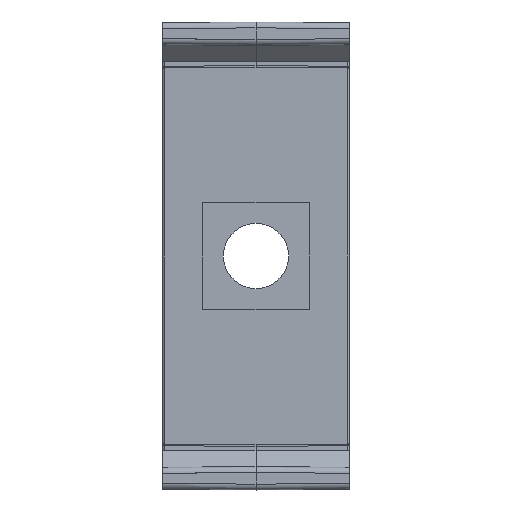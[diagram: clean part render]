
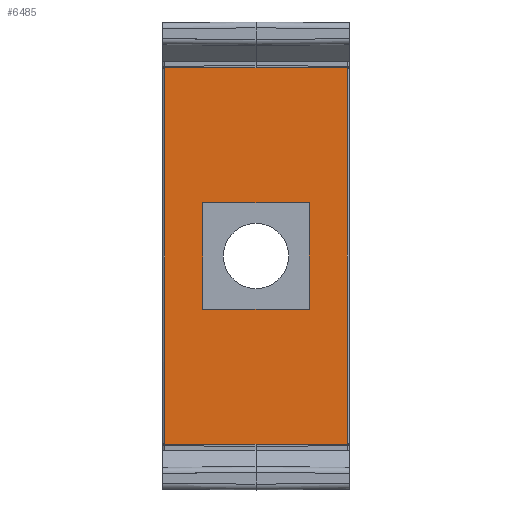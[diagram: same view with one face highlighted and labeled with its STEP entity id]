
A CAD part, front view. The second image highlights one B-rep face of the part: STEP entity #6485.
In plain terms, the highlighted planar face has unit normal (0, -1, 0).
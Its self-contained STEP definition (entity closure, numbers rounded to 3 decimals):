
#6 = VECTOR ( 'NONE', #6651, 1000. ) ;
#101 = VERTEX_POINT ( 'NONE', #4602 ) ;
#395 = EDGE_CURVE ( 'NONE', #2895, #1876, #5619, .T. ) ;
#475 = LINE ( 'NONE', #5902, #6 ) ;
#760 = EDGE_CURVE ( 'NONE', #5408, #2895, #5273, .T. ) ;
#805 = ORIENTED_EDGE ( 'NONE', *, *, #1142, .F. ) ;
#813 = VECTOR ( 'NONE', #3923, 1000. ) ;
#952 = CARTESIAN_POINT ( 'NONE',  ( 4.542, 0., 4.542 ) ) ;
#982 = DIRECTION ( 'NONE',  ( 0., 0., -1. ) ) ;
#1019 = EDGE_CURVE ( 'NONE', #1876, #5669, #5151, .T. ) ;
#1021 = ORIENTED_EDGE ( 'NONE', *, *, #8537, .F. ) ;
#1106 = VECTOR ( 'NONE', #7604, 1000. ) ;
#1124 = EDGE_CURVE ( 'NONE', #7932, #5408, #2514, .T. ) ;
#1142 = EDGE_CURVE ( 'NONE', #5669, #8240, #6219, .T. ) ;
#1193 = ORIENTED_EDGE ( 'NONE', *, *, #395, .F. ) ;
#1202 = CARTESIAN_POINT ( 'NONE',  ( 8., 0., 16.1 ) ) ;
#1441 = CARTESIAN_POINT ( 'NONE',  ( -7.8, 0., 16.1 ) ) ;
#1514 = DIRECTION ( 'NONE',  ( 1., 0., 0. ) ) ;
#1525 = VERTEX_POINT ( 'NONE', #6586 ) ;
#1787 = FACE_BOUND ( 'NONE', #2906, .T. ) ;
#1876 = VERTEX_POINT ( 'NONE', #4313 ) ;
#1885 = PLANE ( 'NONE',  #8732 ) ;
#1932 = VECTOR ( 'NONE', #4443, 1000. ) ;
#1983 = CARTESIAN_POINT ( 'NONE',  ( 0., 0., 16.1 ) ) ;
#2000 = ORIENTED_EDGE ( 'NONE', *, *, #3041, .F. ) ;
#2002 = EDGE_CURVE ( 'NONE', #8240, #7932, #9322, .T. ) ;
#2203 = CARTESIAN_POINT ( 'NONE',  ( 4.542, 0., -16.1 ) ) ;
#2342 = VERTEX_POINT ( 'NONE', #6363 ) ;
#2344 = CARTESIAN_POINT ( 'NONE',  ( 7.8, 0., 16.1 ) ) ;
#2487 = CARTESIAN_POINT ( 'NONE',  ( 8., 0., -16.1 ) ) ;
#2514 = LINE ( 'NONE', #9140, #8149 ) ;
#2644 = CARTESIAN_POINT ( 'NONE',  ( 8., 0., -16.1 ) ) ;
#2895 = VERTEX_POINT ( 'NONE', #9393 ) ;
#2906 = EDGE_LOOP ( 'NONE', ( #7334, #8057, #2000, #1021 ) ) ;
#3034 = LINE ( 'NONE', #8275, #813 ) ;
#3041 = EDGE_CURVE ( 'NONE', #1525, #7394, #3908, .T. ) ;
#3204 = CARTESIAN_POINT ( 'NONE',  ( 8., 0., 4.542 ) ) ;
#3347 = VECTOR ( 'NONE', #8402, 1000. ) ;
#3391 = DIRECTION ( 'NONE',  ( 1., 0., 0. ) ) ;
#3437 = ORIENTED_EDGE ( 'NONE', *, *, #2002, .F. ) ;
#3908 = LINE ( 'NONE', #2203, #1932 ) ;
#3923 = DIRECTION ( 'NONE',  ( 1., 0., 0. ) ) ;
#3976 = CARTESIAN_POINT ( 'NONE',  ( -7.8, 0., -16.1 ) ) ;
#3997 = CARTESIAN_POINT ( 'NONE',  ( 7.8, 0., -16.1 ) ) ;
#4012 = DIRECTION ( 'NONE',  ( -1., 0., 0. ) ) ;
#4253 = VECTOR ( 'NONE', #4890, 1000. ) ;
#4280 = EDGE_CURVE ( 'NONE', #7394, #101, #8713, .T. ) ;
#4313 = CARTESIAN_POINT ( 'NONE',  ( -7.8, 0., -16.1 ) ) ;
#4443 = DIRECTION ( 'NONE',  ( 0., 0., 1. ) ) ;
#4602 = CARTESIAN_POINT ( 'NONE',  ( -4.542, 0., 4.542 ) ) ;
#4659 = ORIENTED_EDGE ( 'NONE', *, *, #1124, .F. ) ;
#4890 = DIRECTION ( 'NONE',  ( 1., 0., 0. ) ) ;
#5151 = LINE ( 'NONE', #3976, #8837 ) ;
#5273 = LINE ( 'NONE', #2487, #3347 ) ;
#5408 = VERTEX_POINT ( 'NONE', #3997 ) ;
#5500 = DIRECTION ( 'NONE',  ( 0., 0., 1. ) ) ;
#5619 = LINE ( 'NONE', #8357, #7829 ) ;
#5669 = VERTEX_POINT ( 'NONE', #1441 ) ;
#5902 = CARTESIAN_POINT ( 'NONE',  ( -4.542, 0., -16.1 ) ) ;
#6219 = LINE ( 'NONE', #1202, #4253 ) ;
#6363 = CARTESIAN_POINT ( 'NONE',  ( -4.542, 0., -4.542 ) ) ;
#6373 = ORIENTED_EDGE ( 'NONE', *, *, #1019, .F. ) ;
#6485 = ADVANCED_FACE ( 'NONE', ( #1787, #9395 ), #1885, .F. ) ;
#6586 = CARTESIAN_POINT ( 'NONE',  ( 4.542, 0., -4.542 ) ) ;
#6651 = DIRECTION ( 'NONE',  ( 0., 0., -1. ) ) ;
#7334 = ORIENTED_EDGE ( 'NONE', *, *, #8418, .F. ) ;
#7355 = VECTOR ( 'NONE', #1514, 1000. ) ;
#7394 = VERTEX_POINT ( 'NONE', #952 ) ;
#7604 = DIRECTION ( 'NONE',  ( -1., 0., 0. ) ) ;
#7792 = DIRECTION ( 'NONE',  ( 0., 1., 0. ) ) ;
#7829 = VECTOR ( 'NONE', #4012, 1000. ) ;
#7932 = VERTEX_POINT ( 'NONE', #2344 ) ;
#8057 = ORIENTED_EDGE ( 'NONE', *, *, #4280, .F. ) ;
#8149 = VECTOR ( 'NONE', #982, 1000. ) ;
#8154 = CARTESIAN_POINT ( 'NONE',  ( 8., 0., 16.1 ) ) ;
#8240 = VERTEX_POINT ( 'NONE', #1983 ) ;
#8275 = CARTESIAN_POINT ( 'NONE',  ( 8., 0., -4.542 ) ) ;
#8357 = CARTESIAN_POINT ( 'NONE',  ( 8., 0., -16.1 ) ) ;
#8402 = DIRECTION ( 'NONE',  ( -1., 0., 0. ) ) ;
#8418 = EDGE_CURVE ( 'NONE', #101, #2342, #475, .T. ) ;
#8537 = EDGE_CURVE ( 'NONE', #2342, #1525, #3034, .T. ) ;
#8647 = ORIENTED_EDGE ( 'NONE', *, *, #760, .F. ) ;
#8713 = LINE ( 'NONE', #3204, #1106 ) ;
#8732 = AXIS2_PLACEMENT_3D ( 'NONE', #2644, #7792, #3391 ) ;
#8837 = VECTOR ( 'NONE', #5500, 1000. ) ;
#9140 = CARTESIAN_POINT ( 'NONE',  ( 7.8, 0., -16.1 ) ) ;
#9322 = LINE ( 'NONE', #8154, #7355 ) ;
#9361 = EDGE_LOOP ( 'NONE', ( #6373, #1193, #8647, #4659, #3437, #805 ) ) ;
#9393 = CARTESIAN_POINT ( 'NONE',  ( 0., 0., -16.1 ) ) ;
#9395 = FACE_OUTER_BOUND ( 'NONE', #9361, .T. ) ;
